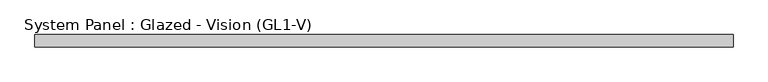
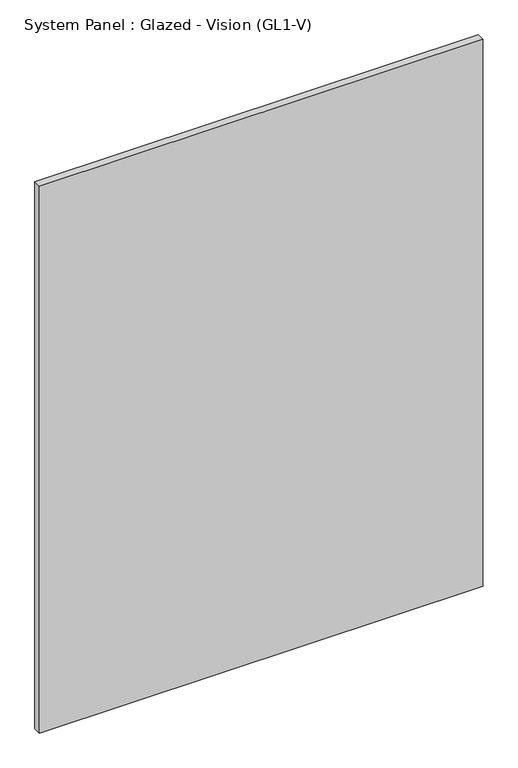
"""IFC4 building model written with IfcOpenShell, lengths in millimetres: plate geometry, System Panel : Glazed - Vision (GL1-V)."""

from ifc_helpers import new_model, si_unit, origin, origin_with_axes, place, context, project, spatial, polyline, outline, extrude, source, transform, mapped, element, save


def system_panel_glazed_vision_gl1_v_251dfc27(model_context):
    return source(origin(), model_context, "Body", "SweptSolid", [
        extrude(outline(polyline([(730.25, -25.4), (-730.25, -25.4), (-730.25, 0.0), (730.25, 0.0), (730.25, -25.4)])), origin_with_axes(), (0.0, 0.0, 1.0), 1904.999999),
    ])


if __name__ == "__main__":
    model = new_model("IFC4")
    model_context = context("Model", 3, world=origin())
    ifc_project = project(units=[si_unit("LENGTHUNIT", "METRE", prefix="MILLI")], contexts=[model_context])
    site = spatial("IfcSite", under=ifc_project)
    building = spatial("IfcBuilding", under=site)
    placement = place(None, origin())
    system_panel_glazed_vision_gl1_v_shape = system_panel_glazed_vision_gl1_v_251dfc27(model_context)
    element("IfcPlate", 1, ObjectType="System Panel : Glazed - Vision (GL1-V)", at=placement, inside=building, context=model_context, shape_type="MappedRepresentation", body=[
        mapped(system_panel_glazed_vision_gl1_v_shape, transform((0.0, 0.0, 0.0), x_axis=(1.0, 0.0, 0.0), y_axis=(0.0, 1.0, 0.0), z_axis=(0.0, 0.0, 1.0))),
    ])
    save(model, "model.ifc")
